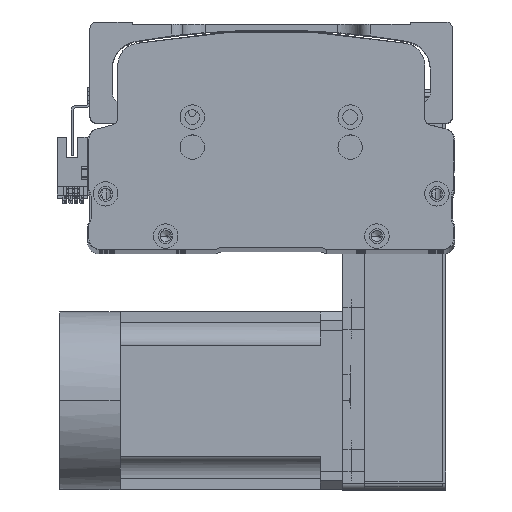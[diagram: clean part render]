
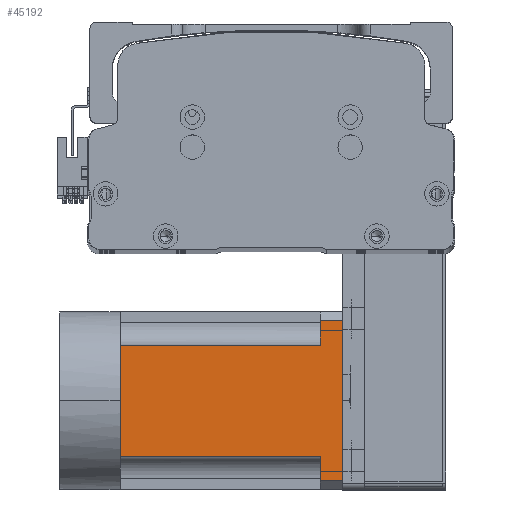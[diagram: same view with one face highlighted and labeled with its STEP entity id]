
A CAD part, top view. The second image highlights one B-rep face of the part: STEP entity #45192.
In plain terms, the highlighted planar face has unit normal (0, 0, 1) as drawn and (0, 0, -1) by its records, which use the part's own axes.
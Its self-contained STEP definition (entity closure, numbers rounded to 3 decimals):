
#346 = VERTEX_POINT ( 'NONE', #30817 ) ;
#543 = DIRECTION ( 'NONE',  ( -1., 0., 0. ) ) ;
#1315 = ORIENTED_EDGE ( 'NONE', *, *, #15118, .T. ) ;
#2747 = CARTESIAN_POINT ( 'NONE',  ( 0., 0., -40. ) ) ;
#4146 = LINE ( 'NONE', #5548, #29114 ) ;
#5548 = CARTESIAN_POINT ( 'NONE',  ( -40., 100., -40. ) ) ;
#6864 = ORIENTED_EDGE ( 'NONE', *, *, #30094, .T. ) ;
#7928 = FACE_OUTER_BOUND ( 'NONE', #11979, .T. ) ;
#8475 = VERTEX_POINT ( 'NONE', #48221 ) ;
#9139 = ORIENTED_EDGE ( 'NONE', *, *, #61348, .T. ) ;
#9905 = VECTOR ( 'NONE', #14960, 1000. ) ;
#10468 = DIRECTION ( 'NONE',  ( -1., 0., 0. ) ) ;
#10635 = ORIENTED_EDGE ( 'NONE', *, *, #33676, .T. ) ;
#11738 = VECTOR ( 'NONE', #30283, 1000. ) ;
#11979 = EDGE_LOOP ( 'NONE', ( #43677, #44421, #6864, #42803, #9139, #1315, #10635, #17660, #41872 ) ) ;
#12643 = VERTEX_POINT ( 'NONE', #44632 ) ;
#13053 = CARTESIAN_POINT ( 'NONE',  ( -25., -27., -40. ) ) ;
#13519 = CARTESIAN_POINT ( 'NONE',  ( -40., 0., -40. ) ) ;
#14159 = EDGE_CURVE ( 'NONE', #346, #48961, #27233, .T. ) ;
#14960 = DIRECTION ( 'NONE',  ( -1., 0., 0. ) ) ;
#15118 = EDGE_CURVE ( 'NONE', #30928, #43957, #36491, .T. ) ;
#15244 = CARTESIAN_POINT ( 'NONE',  ( -40., 90., -40. ) ) ;
#17660 = ORIENTED_EDGE ( 'NONE', *, *, #14159, .T. ) ;
#18081 = EDGE_CURVE ( 'NONE', #8475, #52579, #4146, .T. ) ;
#18237 = DIRECTION ( 'NONE',  ( 0., 1., 0. ) ) ;
#18750 = DIRECTION ( 'NONE',  ( 0., 0., -1. ) ) ;
#19913 = DIRECTION ( 'NONE',  ( 0., -1., 0. ) ) ;
#23538 = CARTESIAN_POINT ( 'NONE',  ( -40., -27., -40. ) ) ;
#24184 = LINE ( 'NONE', #13519, #64025 ) ;
#25980 = VERTEX_POINT ( 'NONE', #46872 ) ;
#27233 = LINE ( 'NONE', #40417, #28836 ) ;
#28122 = DIRECTION ( 'NONE',  ( 0., 1., 0. ) ) ;
#28836 = VECTOR ( 'NONE', #10468, 1000. ) ;
#29114 = VECTOR ( 'NONE', #543, 1000. ) ;
#30094 = EDGE_CURVE ( 'NONE', #25980, #12643, #38366, .T. ) ;
#30283 = DIRECTION ( 'NONE',  ( -1., 0., 0. ) ) ;
#30817 = CARTESIAN_POINT ( 'NONE',  ( -25., 90., -40. ) ) ;
#30928 = VERTEX_POINT ( 'NONE', #2747 ) ;
#31415 = VECTOR ( 'NONE', #54116, 1000. ) ;
#32893 = CARTESIAN_POINT ( 'NONE',  ( -36., -27., -40. ) ) ;
#33676 = EDGE_CURVE ( 'NONE', #43957, #346, #56092, .T. ) ;
#34505 = CARTESIAN_POINT ( 'NONE',  ( -25., 0., -40. ) ) ;
#36491 = LINE ( 'NONE', #44875, #9905 ) ;
#38103 = VECTOR ( 'NONE', #18237, 1000. ) ;
#38366 = LINE ( 'NONE', #15244, #11738 ) ;
#38638 = EDGE_CURVE ( 'NONE', #48961, #52579, #52875, .T. ) ;
#38662 = PLANE ( 'NONE',  #49556 ) ;
#40417 = CARTESIAN_POINT ( 'NONE',  ( -40., 90., -40. ) ) ;
#40856 = EDGE_CURVE ( 'NONE', #8475, #25980, #44728, .T. ) ;
#41827 = CARTESIAN_POINT ( 'NONE',  ( -36., 90., -40. ) ) ;
#41872 = ORIENTED_EDGE ( 'NONE', *, *, #38638, .T. ) ;
#42803 = ORIENTED_EDGE ( 'NONE', *, *, #51963, .T. ) ;
#43677 = ORIENTED_EDGE ( 'NONE', *, *, #18081, .F. ) ;
#43957 = VERTEX_POINT ( 'NONE', #34505 ) ;
#44421 = ORIENTED_EDGE ( 'NONE', *, *, #40856, .T. ) ;
#44632 = CARTESIAN_POINT ( 'NONE',  ( 25., 90., -40. ) ) ;
#44728 = LINE ( 'NONE', #63940, #31415 ) ;
#44875 = CARTESIAN_POINT ( 'NONE',  ( -40., 0., -40. ) ) ;
#45192 = ADVANCED_FACE ( 'NONE', ( #7928 ), #38662, .T. ) ;
#46872 = CARTESIAN_POINT ( 'NONE',  ( 36., 90., -40. ) ) ;
#47599 = CARTESIAN_POINT ( 'NONE',  ( -36., 100., -40. ) ) ;
#48221 = CARTESIAN_POINT ( 'NONE',  ( 36., 100., -40. ) ) ;
#48493 = CARTESIAN_POINT ( 'NONE',  ( 25., 0., -40. ) ) ;
#48961 = VERTEX_POINT ( 'NONE', #41827 ) ;
#49556 = AXIS2_PLACEMENT_3D ( 'NONE', #23538, #18750, #53646 ) ;
#50424 = VECTOR ( 'NONE', #19913, 1000. ) ;
#51963 = EDGE_CURVE ( 'NONE', #12643, #63845, #63723, .T. ) ;
#52579 = VERTEX_POINT ( 'NONE', #47599 ) ;
#52875 = LINE ( 'NONE', #32893, #38103 ) ;
#52958 = VECTOR ( 'NONE', #28122, 1000. ) ;
#53646 = DIRECTION ( 'NONE',  ( -1., 0., 0. ) ) ;
#54116 = DIRECTION ( 'NONE',  ( 0., -1., 0. ) ) ;
#56092 = LINE ( 'NONE', #13053, #52958 ) ;
#59650 = CARTESIAN_POINT ( 'NONE',  ( 25., -27., -40. ) ) ;
#61348 = EDGE_CURVE ( 'NONE', #63845, #30928, #24184, .T. ) ;
#63467 = DIRECTION ( 'NONE',  ( -1., 0., 0. ) ) ;
#63723 = LINE ( 'NONE', #59650, #50424 ) ;
#63845 = VERTEX_POINT ( 'NONE', #48493 ) ;
#63940 = CARTESIAN_POINT ( 'NONE',  ( 36., -27., -40. ) ) ;
#64025 = VECTOR ( 'NONE', #63467, 1000. ) ;
